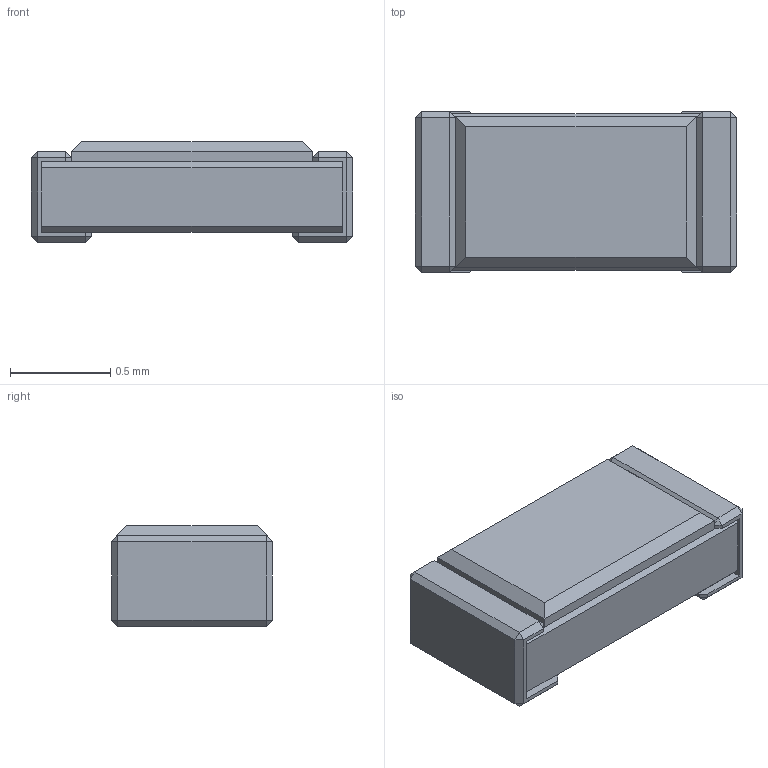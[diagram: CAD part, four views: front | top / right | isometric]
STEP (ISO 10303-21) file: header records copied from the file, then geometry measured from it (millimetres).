
FILE_DESCRIPTION(('FreeCAD Model'),'2;1');
FILE_NAME('/home/kammutierspule/Gliderbits/kicad3Dmodels/generated/Resistors/Chip/Fusion001.step','2017-02-05T21:53:17',('kicad StepUp'),('ksu MCAD'), 'Open CASCADE STEP processor 6.8','FreeCAD','Unknown');
FILE_SCHEMA(('AUTOMOTIVE_DESIGN_CC2 { 1 2 10303 214 -1 1 5 4 }'));
Length unit declared in the file: millimetre
Products named in the file (2): ASSEMBLY; Fusion001
Assembly tree (1 placements, depth 2):
  ASSEMBLY
    Fusion001
Bounding box: 1.6 x 0.8 x 0.5 mm (x, y, z)
Volume: 0.6 mm3; surface area: 4.7 mm2
Topology: 1 solids, 1 shells, 86 faces, 192 edges, 108 vertices
Faces by surface type: plane 86
Entity records: 2890 total; most frequent: CARTESIAN_POINT 388, ORIENTED_EDGE 384, DIRECTION 368, EDGE_CURVE 192, LINE 192, VECTOR 192, VERTEX_POINT 108, AXIS2_PLACEMENT_3D 88
